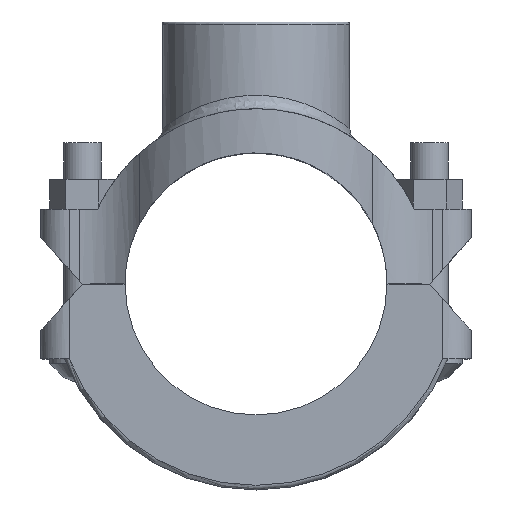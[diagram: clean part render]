
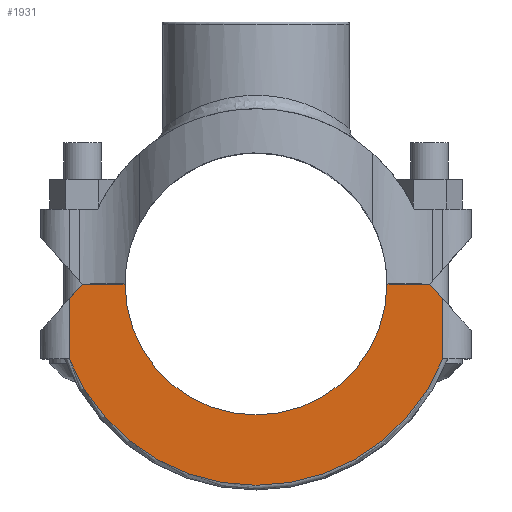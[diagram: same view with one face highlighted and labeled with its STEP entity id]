
A CAD part, top view. The second image highlights one B-rep face of the part: STEP entity #1931.
In plain terms, the highlighted planar face has unit normal (0, 0, 1).
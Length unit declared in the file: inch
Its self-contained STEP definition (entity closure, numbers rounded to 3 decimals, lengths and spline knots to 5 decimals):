
#158=FACE_OUTER_BOUND('',#254,.T.);
#254=EDGE_LOOP('',(#1231,#1232,#1233,#1234,#1235,#1236,#1237,#1238,#1239,
#1240));
#364=CIRCLE('',#2049,2.69);
#366=CIRCLE('',#2052,1.75);
#447=LINE('',#2869,#599);
#448=LINE('',#2871,#600);
#449=LINE('',#2873,#601);
#450=LINE('',#2875,#602);
#451=LINE('',#2879,#603);
#452=LINE('',#2881,#604);
#453=LINE('',#2883,#605);
#454=LINE('',#2884,#606);
#599=VECTOR('',#2272,0.3937);
#600=VECTOR('',#2273,0.3937);
#601=VECTOR('',#2274,0.3937);
#602=VECTOR('',#2275,0.3937);
#603=VECTOR('',#2278,0.3937);
#604=VECTOR('',#2279,0.3937);
#605=VECTOR('',#2280,0.3937);
#606=VECTOR('',#2281,0.3937);
#754=VERTEX_POINT('',#2832);
#755=VERTEX_POINT('',#2837);
#759=VERTEX_POINT('',#2868);
#760=VERTEX_POINT('',#2870);
#761=VERTEX_POINT('',#2872);
#762=VERTEX_POINT('',#2874);
#763=VERTEX_POINT('',#2876);
#764=VERTEX_POINT('',#2878);
#765=VERTEX_POINT('',#2880);
#766=VERTEX_POINT('',#2882);
#944=EDGE_CURVE('',#755,#754,#364,.T.);
#949=EDGE_CURVE('',#754,#759,#447,.T.);
#950=EDGE_CURVE('',#759,#760,#448,.T.);
#951=EDGE_CURVE('',#760,#761,#449,.T.);
#952=EDGE_CURVE('',#762,#761,#450,.T.);
#953=EDGE_CURVE('',#762,#763,#366,.T.);
#954=EDGE_CURVE('',#764,#763,#451,.T.);
#955=EDGE_CURVE('',#764,#765,#452,.T.);
#956=EDGE_CURVE('',#766,#765,#453,.T.);
#957=EDGE_CURVE('',#766,#755,#454,.T.);
#1231=ORIENTED_EDGE('',*,*,#949,.T.);
#1232=ORIENTED_EDGE('',*,*,#950,.T.);
#1233=ORIENTED_EDGE('',*,*,#951,.T.);
#1234=ORIENTED_EDGE('',*,*,#952,.F.);
#1235=ORIENTED_EDGE('',*,*,#953,.T.);
#1236=ORIENTED_EDGE('',*,*,#954,.F.);
#1237=ORIENTED_EDGE('',*,*,#955,.T.);
#1238=ORIENTED_EDGE('',*,*,#956,.F.);
#1239=ORIENTED_EDGE('',*,*,#957,.T.);
#1240=ORIENTED_EDGE('',*,*,#944,.T.);
#1780=PLANE('',#2051);
#1931=ADVANCED_FACE('',(#158),#1780,.T.);
#2049=AXIS2_PLACEMENT_3D('',#2838,#2266,#2267);
#2051=AXIS2_PLACEMENT_3D('',#2867,#2270,#2271);
#2052=AXIS2_PLACEMENT_3D('',#2877,#2276,#2277);
#2266=DIRECTION('center_axis',(0.,0.,1.));
#2267=DIRECTION('ref_axis',(-1.,0.,0.));
#2270=DIRECTION('center_axis',(0.,0.,1.));
#2271=DIRECTION('ref_axis',(-1.,0.,0.));
#2272=DIRECTION('',(-1.,0.,0.));
#2273=DIRECTION('',(0.,1.,0.));
#2274=DIRECTION('',(-0.667,0.745,0.));
#2275=DIRECTION('',(1.,0.,0.));
#2276=DIRECTION('center_axis',(0.,0.,-1.));
#2277=DIRECTION('ref_axis',(-1.,0.,0.));
#2278=DIRECTION('',(1.,0.,0.));
#2279=DIRECTION('',(-0.667,-0.745,0.));
#2280=DIRECTION('',(0.,1.,0.));
#2281=DIRECTION('',(-1.,0.,0.));
#2832=CARTESIAN_POINT('',(2.49722,-1.,0.75));
#2837=CARTESIAN_POINT('',(-2.49722,-1.,0.75));
#2838=CARTESIAN_POINT('Origin',(0.,0.,
0.75));
#2867=CARTESIAN_POINT('Origin',(2.495,0.,0.75));
#2868=CARTESIAN_POINT('',(2.495,-1.,0.75));
#2869=CARTESIAN_POINT('',(2.59,-1.,0.75));
#2870=CARTESIAN_POINT('',(2.495,-0.1955,0.75));
#2871=CARTESIAN_POINT('',(2.495,0.,0.75));
#2872=CARTESIAN_POINT('',(2.32,0.,0.75));
#2873=CARTESIAN_POINT('',(2.35892,-0.04348,0.75));
#2874=CARTESIAN_POINT('',(1.75,0.,0.75));
#2875=CARTESIAN_POINT('',(1.2475,0.,0.75));
#2876=CARTESIAN_POINT('',(-1.75,0.,0.75));
#2877=CARTESIAN_POINT('Origin',(0.,0.,0.75));
#2878=CARTESIAN_POINT('',(-2.32,0.,0.75));
#2879=CARTESIAN_POINT('',(1.2475,0.,0.75));
#2880=CARTESIAN_POINT('',(-2.495,-0.1955,0.75));
#2881=CARTESIAN_POINT('',(-1.52652,0.88641,0.75));
#2882=CARTESIAN_POINT('',(-2.495,-1.,0.75));
#2883=CARTESIAN_POINT('',(-2.495,0.,0.75));
#2884=CARTESIAN_POINT('',(-0.095,-1.,0.75));
